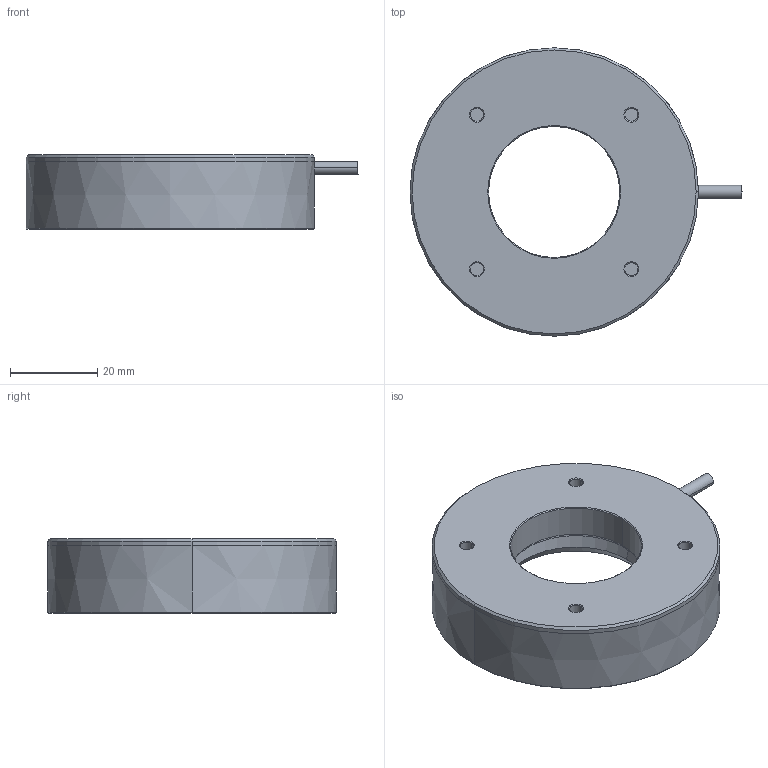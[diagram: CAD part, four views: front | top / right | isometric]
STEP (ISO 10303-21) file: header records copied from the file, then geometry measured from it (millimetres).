
FILE_DESCRIPTION(('STEP AP214'),'1');
FILE_NAME('C:/Users/VST CAD USER/Desktop/140127/DR3066/VL-DR3066 3D.step','2014-01-29T01:51:21',(' '),(' '),'Spatial InterOp 3D',' ',' ');
FILE_SCHEMA(('automotive_design'));
Length unit declared in the file: millimetre
Products named in the file (3): 1; 2; 3
Bounding box: 76 x 66 x 17 mm (x, y, z)
Volume: 39977.6 mm3; surface area: 11975.6 mm2
Topology: 2 solids, 2 shells, 59 faces, 117 edges, 68 vertices
Faces by surface type: cone 34, cylinder 16, plane 9
Entity records: 1563 total; most frequent: DIRECTION 307, CARTESIAN_POINT 245, ORIENTED_EDGE 232, AXIS2_PLACEMENT_3D 128, EDGE_CURVE 116, EDGE_LOOP 66, VERTEX_POINT 66, CIRCLE 66
